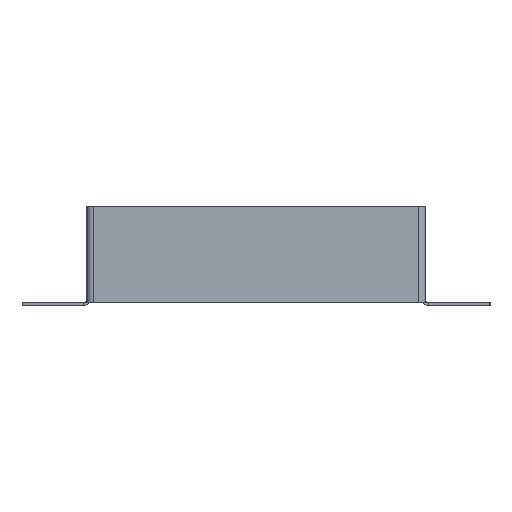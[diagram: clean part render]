
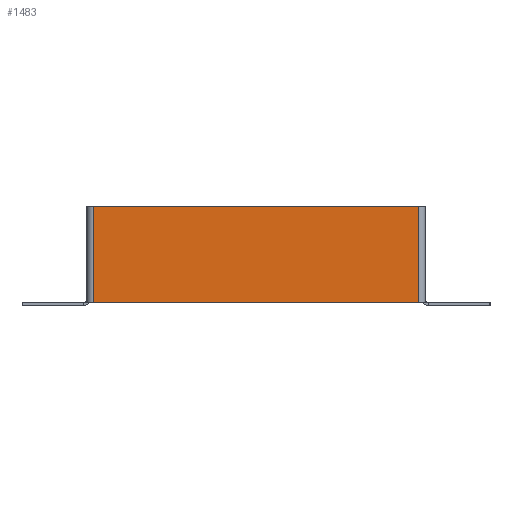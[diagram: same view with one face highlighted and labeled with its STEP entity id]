
A CAD part, front view. The second image highlights one B-rep face of the part: STEP entity #1483.
In plain terms, the highlighted planar face has unit normal (0, -1, 0).
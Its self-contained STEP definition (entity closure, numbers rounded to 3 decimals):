
#153 = EDGE_CURVE ( 'NONE', #4586, #1688, #2458, .T. ) ;
#330 = FACE_OUTER_BOUND ( 'NONE', #1597, .T. ) ;
#415 = CARTESIAN_POINT ( 'NONE',  ( -98., -2., 0. ) ) ;
#460 = EDGE_CURVE ( 'NONE', #4586, #2417, #6250, .T. ) ;
#491 = VECTOR ( 'NONE', #785, 1000. ) ;
#576 = CARTESIAN_POINT ( 'NONE',  ( 98., -2., -58. ) ) ;
#768 = ORIENTED_EDGE ( 'NONE', *, *, #153, .T. ) ;
#785 = DIRECTION ( 'NONE',  ( 0., 0., -1. ) ) ;
#1195 = CARTESIAN_POINT ( 'NONE',  ( -98., -2., -58. ) ) ;
#1483 = ADVANCED_FACE ( 'NONE', ( #330 ), #2900, .F. ) ;
#1579 = VERTEX_POINT ( 'NONE', #415 ) ;
#1597 = EDGE_LOOP ( 'NONE', ( #5556, #1640, #768, #2764 ) ) ;
#1640 = ORIENTED_EDGE ( 'NONE', *, *, #460, .F. ) ;
#1688 = VERTEX_POINT ( 'NONE', #5211 ) ;
#2342 = LINE ( 'NONE', #4817, #3684 ) ;
#2365 = DIRECTION ( 'NONE',  ( 0., 0., 1. ) ) ;
#2417 = VERTEX_POINT ( 'NONE', #1195 ) ;
#2458 = LINE ( 'NONE', #576, #3545 ) ;
#2528 = EDGE_CURVE ( 'NONE', #1579, #2417, #4143, .T. ) ;
#2714 = DIRECTION ( 'NONE',  ( 0., 0., 1. ) ) ;
#2764 = ORIENTED_EDGE ( 'NONE', *, *, #3813, .F. ) ;
#2802 = CARTESIAN_POINT ( 'NONE',  ( 98., -2., -58. ) ) ;
#2832 = CARTESIAN_POINT ( 'NONE',  ( -100., -2., -58. ) ) ;
#2900 = PLANE ( 'NONE',  #3569 ) ;
#3545 = VECTOR ( 'NONE', #2714, 1000. ) ;
#3569 = AXIS2_PLACEMENT_3D ( 'NONE', #3922, #6601, #2365 ) ;
#3684 = VECTOR ( 'NONE', #4279, 1000. ) ;
#3813 = EDGE_CURVE ( 'NONE', #1579, #1688, #2342, .T. ) ;
#3922 = CARTESIAN_POINT ( 'NONE',  ( 0., -2., 0. ) ) ;
#3968 = CARTESIAN_POINT ( 'NONE',  ( -98., -2., 0. ) ) ;
#4143 = LINE ( 'NONE', #3968, #491 ) ;
#4279 = DIRECTION ( 'NONE',  ( 1., 0., 0. ) ) ;
#4377 = DIRECTION ( 'NONE',  ( -1., 0., 0. ) ) ;
#4586 = VERTEX_POINT ( 'NONE', #2802 ) ;
#4817 = CARTESIAN_POINT ( 'NONE',  ( -100., -2., 0. ) ) ;
#5211 = CARTESIAN_POINT ( 'NONE',  ( 98., -2., 0. ) ) ;
#5556 = ORIENTED_EDGE ( 'NONE', *, *, #2528, .T. ) ;
#5917 = VECTOR ( 'NONE', #4377, 1000. ) ;
#6250 = LINE ( 'NONE', #2832, #5917 ) ;
#6601 = DIRECTION ( 'NONE',  ( 0., 1., 0. ) ) ;
